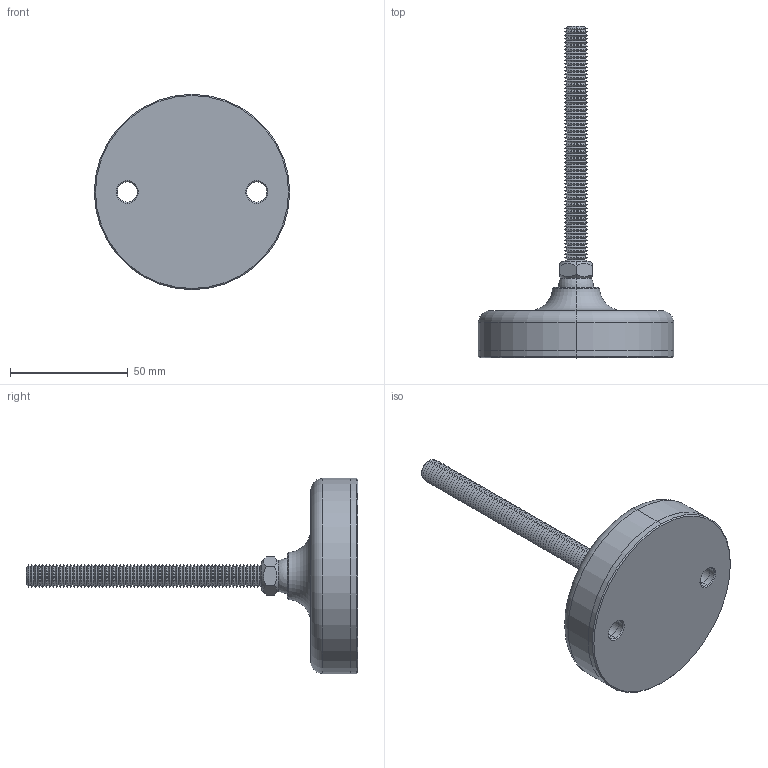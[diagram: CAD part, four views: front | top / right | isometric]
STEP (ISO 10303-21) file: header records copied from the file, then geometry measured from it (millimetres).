
FILE_DESCRIPTION (( 'STEP AP203' ), '1' );
FILE_NAME ('34724.W1002.step', '2019-11-28T22:07:47', ( '' ), ( '' ), 'SwSTEP 2.0', 'SolidWorks 2017', '' );
FILE_SCHEMA (( 'CONFIG_CONTROL_DESIGN' ));
Length unit declared in the file: millimetre
Products named in the file (4): Part1_34724.W1002; Part3_34724.W1002; Part2_34724.W1002; 34724.W1002
Assembly tree (3 placements, depth 2):
  34724.W1002
    Part1_34724.W1002
    Part2_34724.W1002
    Part3_34724.W1002
Bounding box: 83 x 141 x 83 mm (x, y, z)
Volume: 117068.8 mm3; surface area: 33791.6 mm2
Topology: 3 solids, 3 shells, 316 faces, 647 edges, 337 vertices
Faces by surface type: cone 282, plane 14, cylinder 12, sphere 4, torus 4
Entity records: 8558 total; most frequent: DIRECTION 1596, CARTESIAN_POINT 1436, ORIENTED_EDGE 1276, AXIS2_PLACEMENT_3D 648, EDGE_CURVE 638, VERTEX_POINT 332, EDGE_LOOP 328, CIRCLE 326
